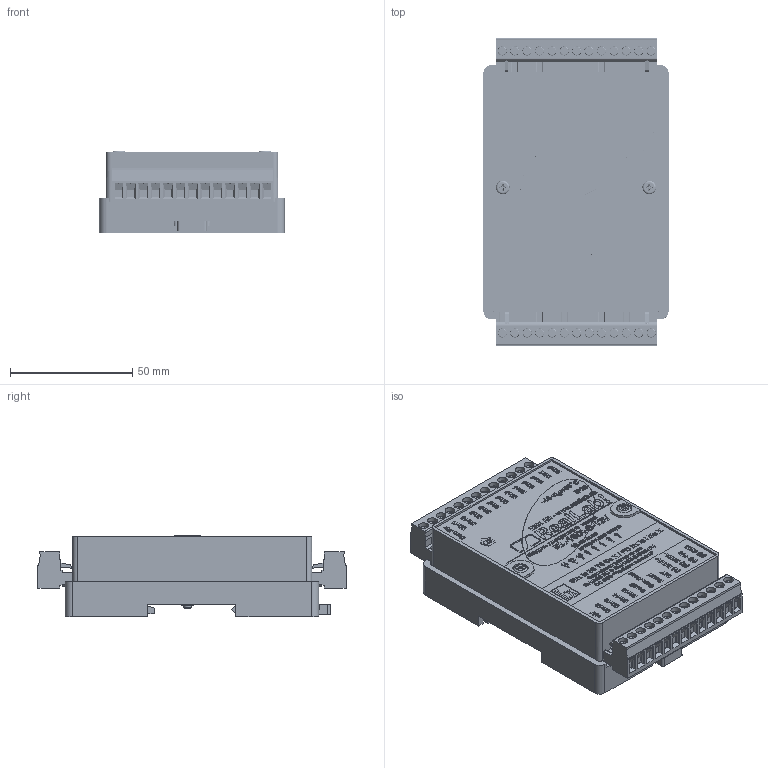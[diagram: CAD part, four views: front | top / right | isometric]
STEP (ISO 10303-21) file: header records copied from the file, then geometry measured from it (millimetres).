
FILE_DESCRIPTION(('STEP AP214'), '1');
FILE_NAME('沓劌錪', '', ('UNSPECIFIED'), ('UNSPECIFIED'), 'C3D Converter', 'C3D Toolkit', '');
FILE_SCHEMA(('AUTOMOTIVE_DESIGN { 1 0 10303 214 3 1 1}'));
Length unit declared in the file: millimetre
Bounding box: 75.8 x 126.21 x 33.5 mm (x, y, z)
Volume: 85379.5 mm3; surface area: 90118.7 mm2
Topology: 47 solids, 47 shells, 8216 faces, 22294 edges, 14741 vertices
Faces by surface type: plane 4065, extrusion 3462, cylinder 502, torus 118, cone 68, bspline 1
Full cylindrical faces by diameter (mm): 1.4 x26, 2.5 x4, 3 x30, 3.38 x2, 3.6 x4, 3.95 x26, 4 x2, 5.6 x2, 6.3 x2, 6.4 x2, 8 x2
Entity records: 356669 total; most frequent: CARTESIAN_POINT 97715, ORIENTED_EDGE 44218, DIRECTION 28786, EDGE_CURVE 22109, VECTOR 16746, VERTEX_POINT 14739, LINE 13284, B_SPLINE_CURVE_WITH_KNOTS 10987
